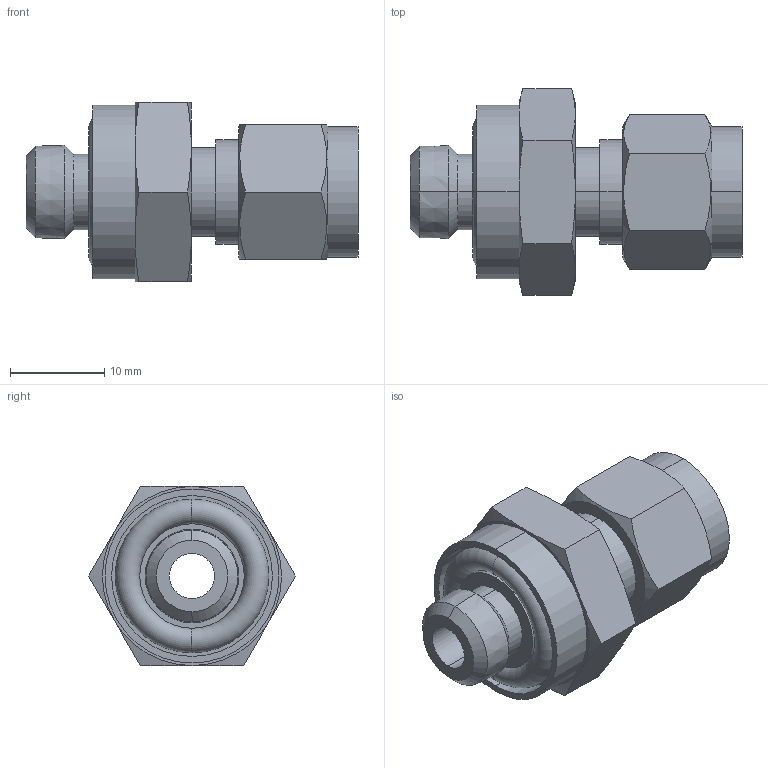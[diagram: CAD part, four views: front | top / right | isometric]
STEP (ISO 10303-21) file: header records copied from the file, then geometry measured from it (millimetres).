
FILE_DESCRIPTION (( 'STEP AP203' ), '1' );
FILE_NAME ('DCM04-02 SS.STEP', '2009-09-08T04:57:13', ( ' ' ), ( '' ), 'SwSTEP 2.0', 'SolidWorks 2008', '' );
FILE_SCHEMA (( 'CONFIG_CONTROL_DESIGN' ));
Length unit declared in the file: millimetre
Products named in the file (1): DCM04-02 SS
Bounding box: 35.3 x 22 x 19.05 mm (x, y, z)
Volume: 5203.2 mm3; surface area: 3570.4 mm2
Topology: 2 solids, 2 shells, 66 faces, 144 edges, 88 vertices
Faces by surface type: cone 22, plane 22, cylinder 18, torus 4
Entity records: 2051 total; most frequent: CARTESIAN_POINT 547, DIRECTION 302, ORIENTED_EDGE 288, EDGE_CURVE 144, AXIS2_PLACEMENT_3D 131, VERTEX_POINT 88, EDGE_LOOP 76, FACE_OUTER_BOUND 66
